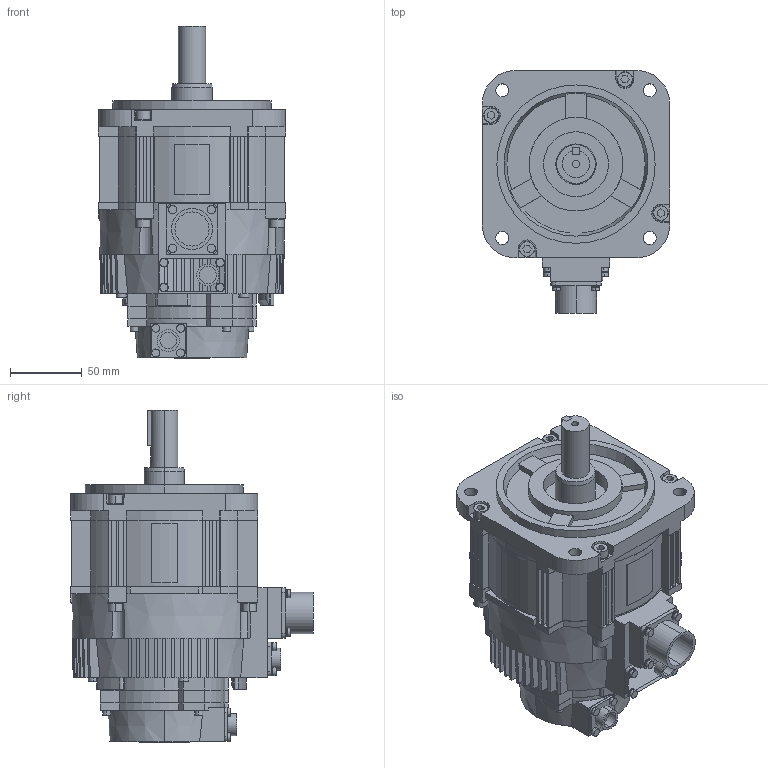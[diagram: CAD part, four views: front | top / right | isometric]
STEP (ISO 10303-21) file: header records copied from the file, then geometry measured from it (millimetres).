
FILE_DESCRIPTION (( 'STEP AP203' ), '1' );
FILE_NAME ('sgmgv_09__a6c.STEP', '2009-02-06T06:14:55', ( 'T' ), ( 'T' ), 'SwSTEP 2.0', 'SolidWorks 2006052', '' );
FILE_SCHEMA (( 'CONFIG_CONTROL_DESIGN' ));
Length unit declared in the file: millimetre
Products named in the file (3): sgmgv_09__a6c_base; sgmgv_09__a6c; sgmgv_09__a6c_key
Assembly tree (2 placements, depth 2):
  sgmgv_09__a6c
    sgmgv_09__a6c_base
    sgmgv_09__a6c_key
Bounding box: 130 x 168.49 x 230.6 mm (x, y, z)
Volume: 2041051.8 mm3; surface area: 156617.4 mm2
Topology: 2 solids, 2 shells, 942 faces, 2404 edges, 1559 vertices
Faces by surface type: plane 589, cylinder 253, cone 100
Entity records: 29390 total; most frequent: CARTESIAN_POINT 5875, DIRECTION 4901, ORIENTED_EDGE 4808, EDGE_CURVE 2404, AXIS2_PLACEMENT_3D 1729, VERTEX_POINT 1559, VECTOR 1443, LINE 1443
